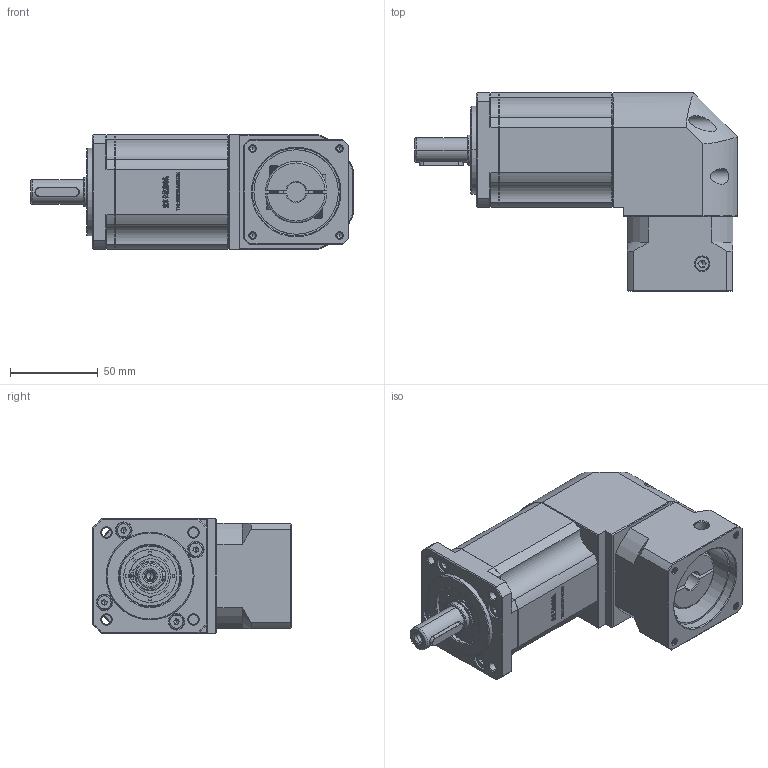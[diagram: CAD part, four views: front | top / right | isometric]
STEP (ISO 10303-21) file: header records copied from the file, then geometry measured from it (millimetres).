
FILE_DESCRIPTION (( 'STEP AP214' ), '1' );
FILE_NAME ('ZBR60-D14-L3-11-50-70-M4.STEP', '2022-04-19T08:24:58', ( '' ), ( 'Microsoft' ), 'SwSTEP 2.0', 'SolidWorks 2016', '' );
FILE_SCHEMA (( 'AUTOMOTIVE_DESIGN' ));
Length unit declared in the file: millimetre
Products named in the file (1): ZBR60-D14-L3-11-50-70-M4
Bounding box: 183.5 x 112.7 x 65 mm (x, y, z)
Volume: 647119.1 mm3; surface area: 85402 mm2
Topology: 5 solids, 5 shells, 2835 faces, 7689 edges, 4990 vertices
Faces by surface type: plane 1472, bspline 579, cylinder 424, cone 326, torus 34
Entity records: 152689 total; most frequent: CARTESIAN_POINT 54357, ORIENTED_EDGE 15318, DIRECTION 11689, EDGE_CURVE 7659, VECTOR 5037, LINE 5037, VERTEX_POINT 4990, AXIS2_PLACEMENT_3D 3326
